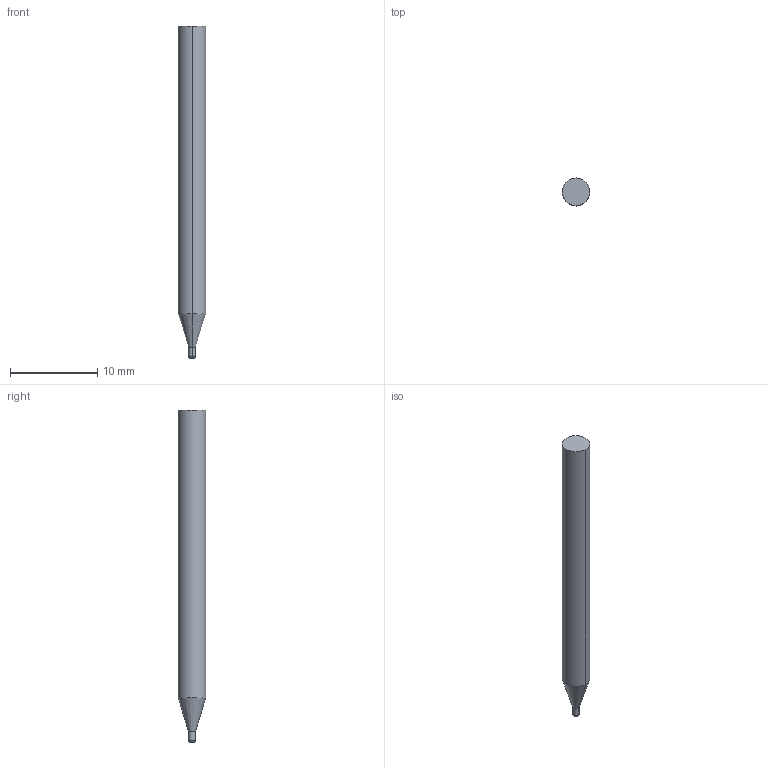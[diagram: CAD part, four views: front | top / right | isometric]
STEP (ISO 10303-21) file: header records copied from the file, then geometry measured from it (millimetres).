
FILE_DESCRIPTION((' '),'2;1');
FILE_NAME( '3MVS0312R.005AH.stp', '2026-01-21T19:06:53', (' '), ('--- Datakit www.datakit.com---'), ' Datakit CrossCadWare V2025.4 Sep 19 2025', 'Mastercam 2027', ' ');
FILE_SCHEMA(('AUTOMOTIVE_DESIGN { 1 0 10303 214 1 1 1 1 }'));
Length unit declared in the file: inch
Products named in the file (1): 3MVS0312R
Bounding box: 3.17 x 3.17 x 38.1 mm (x, y, z)
Volume: 275.4 mm3; surface area: 365.9 mm2
Topology: 1 solids, 1 shells, 10 faces, 18 edges, 10 vertices
Faces by surface type: cylinder 4, plane 2, torus 2, cone 2
Entity records: 318 total; most frequent: DIRECTION 60, CARTESIAN_POINT 43, ORIENTED_EDGE 36, AXIS2_PLACEMENT_3D 27, EDGE_CURVE 18, CIRCLE 12, VERTEX_POINT 10, EDGE_LOOP 10
